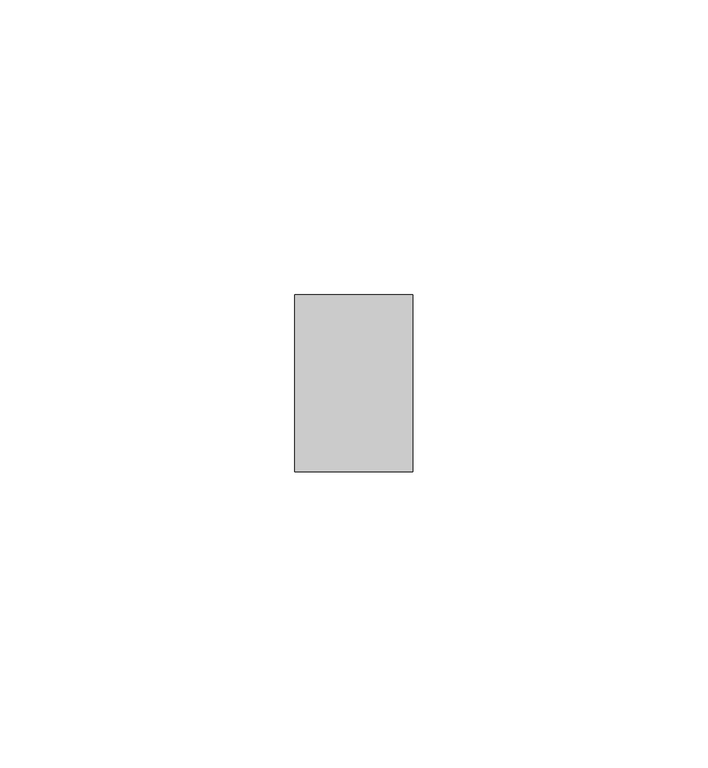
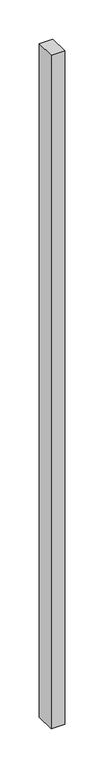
"""IFC4 building model written with IfcOpenShell, lengths in millimetres: member geometry, Прямоугольный импост : Квадрат 10 мм - Зазор между навесными плитами."""

import ifcopenshell
import ifcopenshell.guid

model = None  # the IFC model being written
_history = None  # IfcOwnerHistory: only IFC2X3 demands one
_inside = {}  # id of a spatial element -> (the spatial element, [elements in it])
_under = {}  # id of a project, library or spatial element -> (it, [spatial elements below it])
_declared = {}  # id of a project -> (the project, [libraries it declares])
_typed = {}  # id of a type object -> (the type object, [elements of that type])
_made_of = {}  # id of a material, layer set ... -> (it, [elements and type objects made of it])


def new_model(schema):
    """Start an empty IFC model of exactly this schema.

    Asked for "IFC4X3", IfcOpenShell would pick the latest addendum, in which some entities
    have other attributes; the version numbers below select the first issue.
    IFC2X3 requires an IfcOwnerHistory on every rooted entity: one is made here for all.
    """
    global model, _history
    if schema == "IFC4X3":
        model = ifcopenshell.file(schema_version=(4, 3, 0, 0))
    else:
        model = ifcopenshell.file(schema=schema)
    _inside.clear()
    _under.clear()
    _declared.clear()
    _typed.clear()
    _made_of.clear()
    _history = None
    if model.schema == "IFC2X3":
        org = make("IfcOrganization", Name="unknown")
        user = make(
            "IfcPersonAndOrganization",
            ThePerson=make("IfcPerson", FamilyName="unknown"),
            TheOrganization=org,
        )
        app = make(
            "IfcApplication",
            ApplicationDeveloper=org,
            Version="unknown",
            ApplicationFullName="unknown",
            ApplicationIdentifier="unknown",
        )
        _history = make(
            "IfcOwnerHistory",
            OwningUser=user,
            OwningApplication=app,
            ChangeAction="ADDED",
            CreationDate=0,
        )
    return model


def make(cls, **values):
    """One entity of the class cls with the attributes given. An attribute that is None is left unset."""
    return model.create_entity(
        cls, **{name: value for name, value in values.items() if value is not None}
    )


def rooted(cls, **values):
    """An entity with a GlobalId (a new one), such as an element, a storey or a relation."""
    return make(cls, GlobalId=ifcopenshell.guid.new(), OwnerHistory=_history, **values)


def si_unit(unit_type, name, prefix=None):
    """IfcSIUnit, for example si_unit("LENGTHUNIT", "METRE", prefix="MILLI")."""
    return make("IfcSIUnit", UnitType=unit_type, Prefix=prefix, Name=name)


def assignment(units):
    """IfcUnitAssignment: the units of a project."""
    return None if units is None else make("IfcUnitAssignment", Units=units)


def point(xyz):
    """IfcCartesianPoint."""
    return None if xyz is None else make("IfcCartesianPoint", Coordinates=xyz)


def direction(xyz):
    """IfcDirection."""
    return None if xyz is None else make("IfcDirection", DirectionRatios=xyz)


def frame(location, z_axis=None, x_axis=None):
    """IfcAxis2Placement3D, a coordinate frame: its origin and axes. An axis left out is left unset."""
    return make(
        "IfcAxis2Placement3D",
        Location=point(location),
        Axis=direction(z_axis),
        RefDirection=direction(x_axis),
    )


def origin():
    """The frame at (0, 0, 0) with its axes left unset."""
    return frame((0.0, 0.0, 0.0))


def place(relative_to, where):
    """IfcLocalPlacement: puts the frame where relative to a parent placement (None: the world)."""
    return make(
        "IfcLocalPlacement", PlacementRelTo=relative_to, RelativePlacement=where
    )


def context(
    kind, dimensions, precision=None, world=None, true_north=None, identifier=None
):
    """IfcGeometricRepresentationContext, for example the 3D "Model" context."""
    return make(
        "IfcGeometricRepresentationContext",
        ContextIdentifier=identifier,
        ContextType=kind,
        CoordinateSpaceDimension=dimensions,
        Precision=precision,
        WorldCoordinateSystem=world,
        TrueNorth=true_north,
    )


def project(units=None, contexts=None):
    """IfcProject with its units and contexts."""
    return rooted(
        "IfcProject",
        Name="project",
        RepresentationContexts=contexts,
        UnitsInContext=assignment(units),
    )


def spatial(cls, under=None, at=None, **own):
    """A site, building, storey or space (cls), placed at a placement, below another one or the project."""
    s = rooted(cls, ObjectPlacement=at, **own)
    if under is not None:
        _under.setdefault(under.id(), (under, []))[1].append(s)
    return s


def polyline(points):
    """IfcPolyline through the points."""
    return make("IfcPolyline", Points=[point(p) for p in points])


def outline(outer, holes=None, kind="AREA"):
    """IfcArbitraryClosedProfileDef: a profile drawn as a closed curve; with holes, ...WithVoids."""
    if holes is None:
        return make("IfcArbitraryClosedProfileDef", ProfileType=kind, OuterCurve=outer)
    return make(
        "IfcArbitraryProfileDefWithVoids",
        ProfileType=kind,
        OuterCurve=outer,
        InnerCurves=holes,
    )


def extrude(swept, where, along, depth):
    """IfcExtrudedAreaSolid: the profile swept, set in the frame where, extruded along a direction by depth."""
    return make(
        "IfcExtrudedAreaSolid",
        SweptArea=swept,
        Position=where,
        ExtrudedDirection=direction(along),
        Depth=depth,
    )


def shape(context_of_items, identifier, shape_type, items):
    """IfcShapeRepresentation: the items that make up one representation, for example the "Body"."""
    return make(
        "IfcShapeRepresentation",
        ContextOfItems=context_of_items,
        RepresentationIdentifier=identifier,
        RepresentationType=shape_type,
        Items=items,
    )


def source(mapping_origin, context_of_items, identifier, shape_type, items):
    """IfcRepresentationMap: a shape defined once, which mapped items show again and again."""
    return make(
        "IfcRepresentationMap",
        MappingOrigin=mapping_origin,
        MappedRepresentation=shape(context_of_items, identifier, shape_type, items),
    )


def transform(
    local_origin,
    x_axis=None,
    y_axis=None,
    z_axis=None,
    scale=None,
    scale2=None,
    scale3=None,
    uniform=True,
):
    """IfcCartesianTransformationOperator3D, or its non-uniform kind. x_axis, y_axis, z_axis: its Axis1, 2, 3."""
    if uniform:
        return make(
            "IfcCartesianTransformationOperator3D",
            Axis1=direction(x_axis),
            Axis2=direction(y_axis),
            LocalOrigin=point(local_origin),
            Scale=scale,
            Axis3=direction(z_axis),
        )
    return make(
        "IfcCartesianTransformationOperator3DnonUniform",
        Axis1=direction(x_axis),
        Axis2=direction(y_axis),
        LocalOrigin=point(local_origin),
        Scale=scale,
        Axis3=direction(z_axis),
        Scale2=scale2,
        Scale3=scale3,
    )


def mapped(mapping_source, mapping_target):
    """IfcMappedItem: shows the shape of a source again, moved by a transform."""
    return make(
        "IfcMappedItem", MappingSource=mapping_source, MappingTarget=mapping_target
    )


def made_of(thing, what):
    """Note that an element or type object is made of a material, layer set ...; save() writes the relation."""
    if what is not None:
        _made_of.setdefault(what.id(), (what, []))[1].append(thing)
    return thing


def element(
    cls,
    number,
    at=None,
    inside=None,
    cuts=None,
    type_object=None,
    material=None,
    context=None,
    identifier="Body",
    shape_type=None,
    held_by="IfcProductDefinitionShape",
    body=None,
    shapes=None,
    **own,
):
    """One element of the class cls, such as IfcWall. Its Tag is "e" and its number.

    at: its placement. inside: the storey or other place that contains it. cuts: it is an
    opening in that element (IfcRelVoidsElement). A single representation is given by context,
    identifier, shape_type and body (its items); several are given by shapes. held_by: the class
    of the entity that holds the representations. save() writes the other relations.
    """
    e = rooted(cls, Tag="e%d" % number, ObjectPlacement=at, **own)
    if body is not None:
        shapes = [shape(context, identifier, shape_type, body)]
    if shapes is not None:
        e.Representation = make(held_by, Representations=shapes)
    if inside is not None:
        _inside.setdefault(inside.id(), (inside, []))[1].append(e)
    if cuts is not None:
        rooted(
            "IfcRelVoidsElement", RelatingBuildingElement=cuts, RelatedOpeningElement=e
        )
    if type_object is not None:
        _typed.setdefault(type_object.id(), (type_object, []))[1].append(e)
    return made_of(e, material)


def aggregate(whole, parts):
    """IfcRelAggregates: a whole, such as a stair, and the parts it consists of."""
    return rooted("IfcRelAggregates", RelatingObject=whole, RelatedObjects=parts)


def save(model, path):
    """Write the relations noted so far, then the file.

    IfcRelAggregates (storeys below a building ...), IfcRelContainedInSpatialStructure (elements
    in a storey), IfcRelDefinesByType, IfcRelAssociatesMaterial and IfcRelDeclares: one each for
    every whole, place, type object, material and project.
    """
    for whole, parts in _under.values():
        aggregate(whole, parts)
    for where, things in _inside.values():
        rooted(
            "IfcRelContainedInSpatialStructure",
            RelatedElements=things,
            RelatingStructure=where,
        )
    for kind, things in _typed.values():
        rooted("IfcRelDefinesByType", RelatedObjects=things, RelatingType=kind)
    for what, things in _made_of.values():
        rooted("IfcRelAssociatesMaterial", RelatedObjects=things, RelatingMaterial=what)
    for by, libraries in _declared.values():
        rooted("IfcRelDeclares", RelatingContext=by, RelatedDefinitions=libraries)
    model.write(path)


def member_6c2cd5c2(model_context):
    return source(origin(), model_context, "Body", "SweptSolid", [
        extrude(outline(polyline([(0.0, 15.0), (0.0, -15.0), (-20.0, -15.0), (-20.0, 15.0), (0.0, 15.0)])), frame((0.0, 0.0, -1047.4094589), z_axis=(0.0, 0.0, 1.0), x_axis=(1.0, 0.0, 0.0)), (0.0, 0.0, 1.0), 1047.4094589),
    ])


if __name__ == "__main__":
    model = new_model("IFC4")
    model_context = context("Model", 3, world=origin())
    ifc_project = project(units=[si_unit("LENGTHUNIT", "METRE", prefix="MILLI")], contexts=[model_context])
    site = spatial("IfcSite", under=ifc_project)
    building = spatial("IfcBuilding", under=site)
    placement = place(None, origin())
    member_shape = member_6c2cd5c2(model_context)
    element("IfcMember", 1, ObjectType="Прямоугольный импост : Квадрат 10 мм - Зазор между навесными плитами", at=placement, inside=building, context=model_context, shape_type="MappedRepresentation", body=[
        mapped(member_shape, transform((0.0, 0.0, 0.0), x_axis=(1.0, 0.0, 0.0), y_axis=(0.0, 1.0, 0.0), z_axis=(0.0, 0.0, 1.0))),
    ])
    save(model, "model.ifc")
